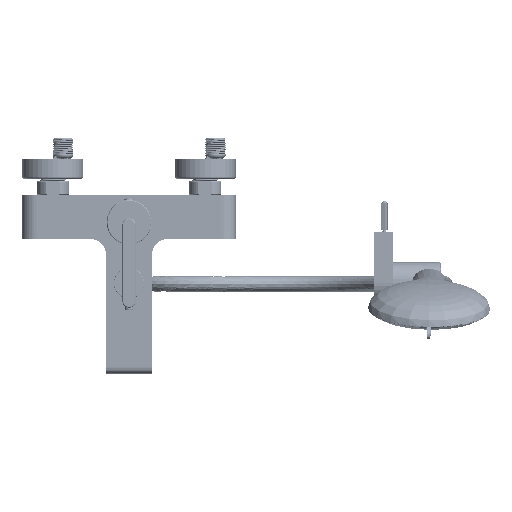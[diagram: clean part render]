
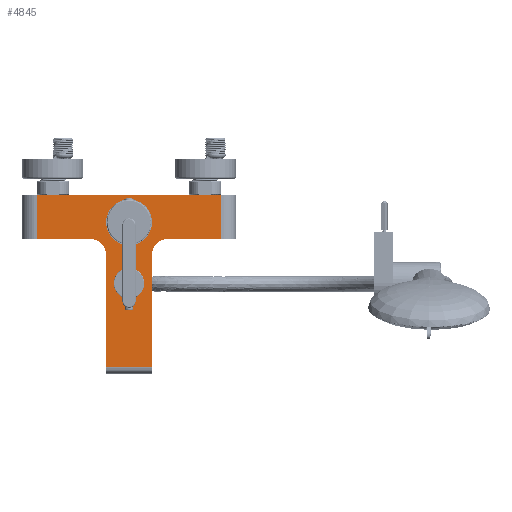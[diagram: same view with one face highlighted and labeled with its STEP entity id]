
A CAD part, top view. The second image highlights one B-rep face of the part: STEP entity #4845.
In plain terms, the highlighted planar face has unit normal (0, 0, 1).
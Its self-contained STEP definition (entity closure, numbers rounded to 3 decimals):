
#809=DIRECTION('',(1.,0.,0.));
#810=VECTOR('',#809,182.);
#811=CARTESIAN_POINT('',(-661.925,-36.21,
-16.855));
#812=LINE('',#811,#810);
#833=DIRECTION('',(0.,1.,0.));
#834=VECTOR('',#833,43.1);
#835=CARTESIAN_POINT('',(-661.925,-79.31,
-16.855));
#836=LINE('',#835,#834);
#841=CARTESIAN_POINT('',(-608.425,-94.01,
-16.855));
#842=DIRECTION('',(0.,0.,-1.));
#843=DIRECTION('',(0.,1.,0.));
#844=AXIS2_PLACEMENT_3D('',#841,#842,#843);
#846=CARTESIAN_POINT('',(-533.425,-94.01,
-16.855));
#847=DIRECTION('',(0.,0.,-1.));
#848=DIRECTION('',(-1.,0.,0.));
#849=AXIS2_PLACEMENT_3D('',#846,#847,#848);
#851=CARTESIAN_POINT('',(-570.87,-62.76,
-16.855));
#852=DIRECTION('',(0.,0.,-1.));
#853=DIRECTION('',(0.,-1.,0.));
#854=AXIS2_PLACEMENT_3D('',#851,#852,#853);
#856=CARTESIAN_POINT('',(-570.87,-62.76,
-16.855));
#857=DIRECTION('',(0.,0.,-1.));
#858=DIRECTION('',(0.,1.,0.));
#859=AXIS2_PLACEMENT_3D('',#856,#857,#858);
#861=CARTESIAN_POINT('',(-570.87,-122.807,
-16.855));
#862=DIRECTION('',(0.,0.,-1.));
#863=DIRECTION('',(0.,-1.,0.));
#864=AXIS2_PLACEMENT_3D('',#861,#862,#863);
#866=CARTESIAN_POINT('',(-570.87,-122.807,
-16.855));
#867=DIRECTION('',(0.,0.,-1.));
#868=DIRECTION('',(0.,1.,0.));
#869=AXIS2_PLACEMENT_3D('',#866,#867,#868);
#871=DIRECTION('',(0.,1.,0.));
#872=VECTOR('',#871,111.497);
#873=CARTESIAN_POINT('',(-548.125,-205.507,
-16.855));
#874=LINE('',#873,#872);
#901=DIRECTION('',(-1.,0.,0.));
#902=VECTOR('',#901,53.5);
#903=CARTESIAN_POINT('',(-608.425,-79.31,
-16.855));
#904=LINE('',#903,#902);
#905=DIRECTION('',(-1.,0.,0.));
#906=VECTOR('',#905,53.5);
#907=CARTESIAN_POINT('',(-479.925,-79.31,
-16.855));
#908=LINE('',#907,#906);
#918=DIRECTION('',(0.,-1.,0.));
#919=VECTOR('',#918,43.1);
#920=CARTESIAN_POINT('',(-479.925,-36.21,
-16.855));
#921=LINE('',#920,#919);
#942=DIRECTION('',(0.,-1.,0.));
#943=VECTOR('',#942,111.497);
#944=CARTESIAN_POINT('',(-593.725,-94.01,
-16.855));
#945=LINE('',#944,#943);
#960=DIRECTION('',(1.,0.,0.));
#961=VECTOR('',#960,45.6);
#962=CARTESIAN_POINT('',(-593.725,-205.507,
-16.855));
#963=LINE('',#962,#961);
#3784=CARTESIAN_POINT('',(-661.925,-36.21,
-16.855));
#3785=CARTESIAN_POINT('',(-479.925,-36.21,
-16.855));
#3786=VERTEX_POINT('',#3784);
#3787=VERTEX_POINT('',#3785);
#3794=CARTESIAN_POINT('',(-479.925,-79.31,
-16.855));
#3795=VERTEX_POINT('',#3794);
#3798=CARTESIAN_POINT('',(-593.725,-94.01,
-16.855));
#3799=VERTEX_POINT('',#3798);
#3800=CARTESIAN_POINT('',(-608.425,-79.31,
-16.855));
#3802=VERTEX_POINT('',#3800);
#3804=CARTESIAN_POINT('',(-661.925,-79.31,
-16.855));
#3805=VERTEX_POINT('',#3804);
#3808=CARTESIAN_POINT('',(-533.425,-79.31,
-16.855));
#3809=VERTEX_POINT('',#3808);
#3810=CARTESIAN_POINT('',(-548.125,-94.01,
-16.855));
#3812=VERTEX_POINT('',#3810);
#3830=CARTESIAN_POINT('',(-570.87,-85.31,
-16.855));
#3831=CARTESIAN_POINT('',(-570.87,-40.21,
-16.855));
#3832=VERTEX_POINT('',#3830);
#3833=VERTEX_POINT('',#3831);
#3834=CARTESIAN_POINT('',(-570.87,-129.307,
-16.855));
#3835=CARTESIAN_POINT('',(-570.87,-116.307,
-16.855));
#3836=VERTEX_POINT('',#3834);
#3837=VERTEX_POINT('',#3835);
#3838=CARTESIAN_POINT('',(-593.725,-205.507,
-16.855));
#3839=VERTEX_POINT('',#3838);
#3842=CARTESIAN_POINT('',(-548.125,-205.507,
-16.855));
#3843=VERTEX_POINT('',#3842);
#4808=CARTESIAN_POINT('',(-680.224,-198.432,
-16.855));
#4809=DIRECTION('',(0.,0.,1.));
#4810=DIRECTION('',(1.,0.,0.));
#4811=AXIS2_PLACEMENT_3D('',#4808,#4809,#4810);
#4812=PLANE('',#4811);
#4814=ORIENTED_EDGE('',*,*,#4813,.F.);
#4816=ORIENTED_EDGE('',*,*,#4815,.F.);
#4818=ORIENTED_EDGE('',*,*,#4817,.F.);
#4820=ORIENTED_EDGE('',*,*,#4819,.F.);
#4822=ORIENTED_EDGE('',*,*,#4821,.T.);
#4823=ORIENTED_EDGE('',*,*,#4799,.T.);
#4824=ORIENTED_EDGE('',*,*,#4777,.T.);
#4826=ORIENTED_EDGE('',*,*,#4825,.T.);
#4828=ORIENTED_EDGE('',*,*,#4827,.T.);
#4830=ORIENTED_EDGE('',*,*,#4829,.F.);
#4831=EDGE_LOOP('',(#4814,#4816,#4818,#4820,#4822,#4823,#4824,#4826,#4828,
#4830));
#4832=FACE_OUTER_BOUND('',#4831,.F.);
#4834=ORIENTED_EDGE('',*,*,#4833,.F.);
#4836=ORIENTED_EDGE('',*,*,#4835,.F.);
#4837=EDGE_LOOP('',(#4834,#4836));
#4838=FACE_BOUND('',#4837,.F.);
#4840=ORIENTED_EDGE('',*,*,#4839,.F.);
#4842=ORIENTED_EDGE('',*,*,#4841,.F.);
#4843=EDGE_LOOP('',(#4840,#4842));
#4844=FACE_BOUND('',#4843,.F.);
#845=CIRCLE('',#844,14.7);
#850=CIRCLE('',#849,14.7);
#855=CIRCLE('',#854,22.55);
#860=CIRCLE('',#859,22.55);
#865=CIRCLE('',#864,6.5);
#870=CIRCLE('',#869,6.5);
#4777=EDGE_CURVE('',#3786,#3787,#812,.T.);
#4799=EDGE_CURVE('',#3805,#3786,#836,.T.);
#4813=EDGE_CURVE('',#3843,#3812,#874,.T.);
#4815=EDGE_CURVE('',#3839,#3843,#963,.T.);
#4817=EDGE_CURVE('',#3799,#3839,#945,.T.);
#4819=EDGE_CURVE('',#3802,#3799,#845,.T.);
#4821=EDGE_CURVE('',#3802,#3805,#904,.T.);
#4825=EDGE_CURVE('',#3787,#3795,#921,.T.);
#4827=EDGE_CURVE('',#3795,#3809,#908,.T.);
#4829=EDGE_CURVE('',#3812,#3809,#850,.T.);
#4833=EDGE_CURVE('',#3832,#3833,#855,.T.);
#4835=EDGE_CURVE('',#3833,#3832,#860,.T.);
#4839=EDGE_CURVE('',#3836,#3837,#865,.T.);
#4841=EDGE_CURVE('',#3837,#3836,#870,.T.);
#4845=ADVANCED_FACE('',(#4832,#4838,#4844),#4812,.T.);
